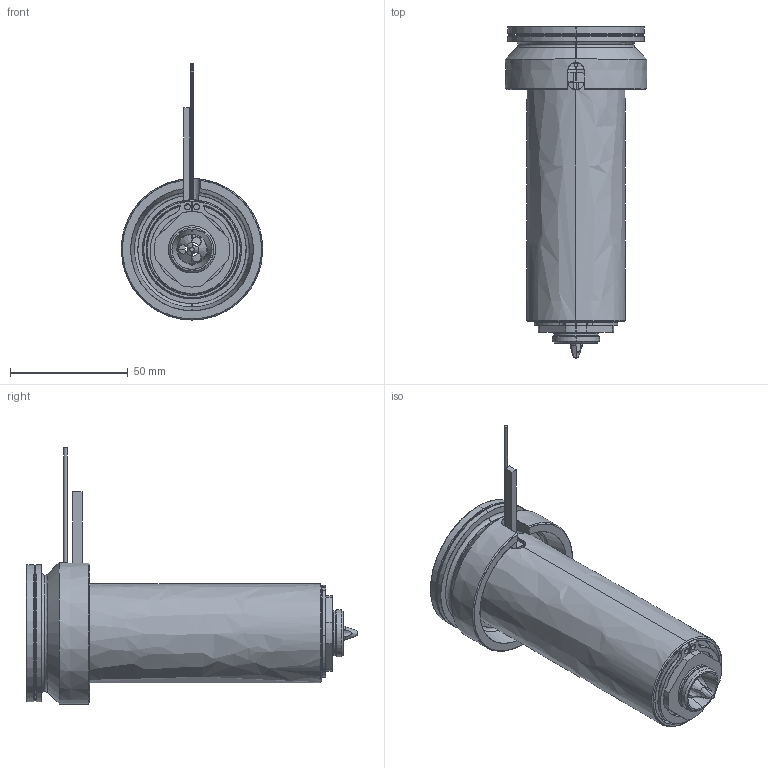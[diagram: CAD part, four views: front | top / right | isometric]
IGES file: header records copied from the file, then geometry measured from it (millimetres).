
Start section: SolidWorks IGES file using analytic representation for surfaces
Global section: file name: C:\Documents and Settings\ws-20\Desktop\TEM\UGEP6005-S-A-0 [Øf-1.9 ØC-15].IGS; native system: SolidWorks 2012; preprocessor: SolidWorks 2012; author: ws-20; date: 120427.092911; units: millimetre
Bounding box: 60 x 140.8 x 108.65 mm (x, y, z)
Surface area: 65027.2 mm2 (no closed solid volume)
Topology: 0 solids, 0 shells, 131 faces, 2701 edges, 2701 vertices
Faces by surface type: revolution 86, bspline 45
